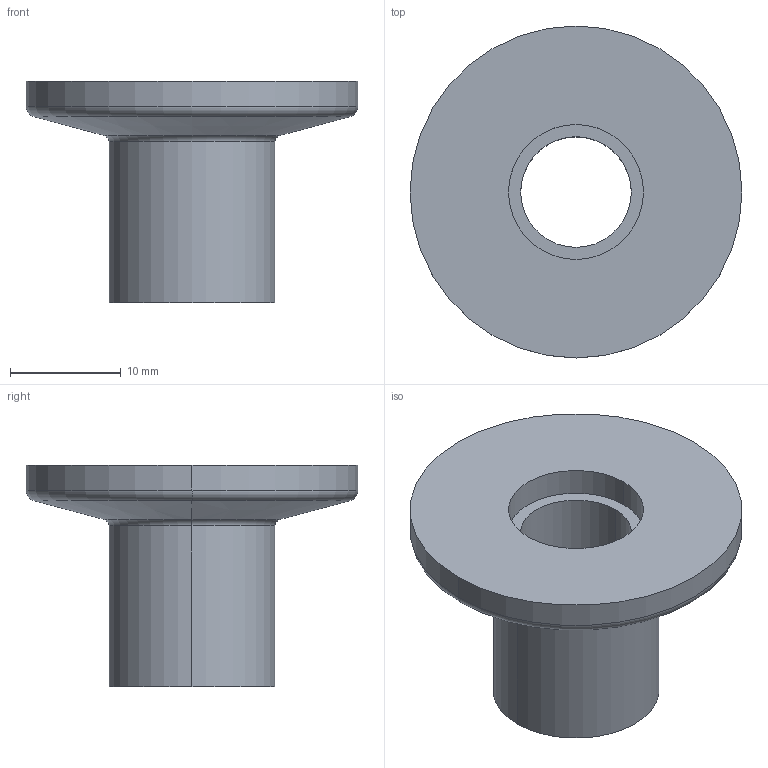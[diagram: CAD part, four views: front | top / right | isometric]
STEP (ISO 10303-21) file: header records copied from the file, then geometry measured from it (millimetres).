
FILE_DESCRIPTION (( 'STEP AP214' ), '1' );
FILE_NAME ('W3KF10.STEP', '2019-03-23T08:24:06', ( '' ), ( '' ), 'SwSTEP 2.0', 'SolidWorks 2018', '' );
FILE_SCHEMA (( 'AUTOMOTIVE_DESIGN' ));
Length unit declared in the file: millimetre
Products named in the file (1): W3KF10
Bounding box: 30 x 30 x 20 mm (x, y, z)
Volume: 3923 mm3; surface area: 2882.2 mm2
Topology: 1 solids, 1 shells, 17 faces, 34 edges, 20 vertices
Faces by surface type: cylinder 8, torus 4, plane 3, cone 2
Entity records: 486 total; most frequent: DIRECTION 94, CARTESIAN_POINT 72, ORIENTED_EDGE 68, AXIS2_PLACEMENT_3D 42, EDGE_CURVE 34, CIRCLE 24, EDGE_LOOP 20, VERTEX_POINT 20
